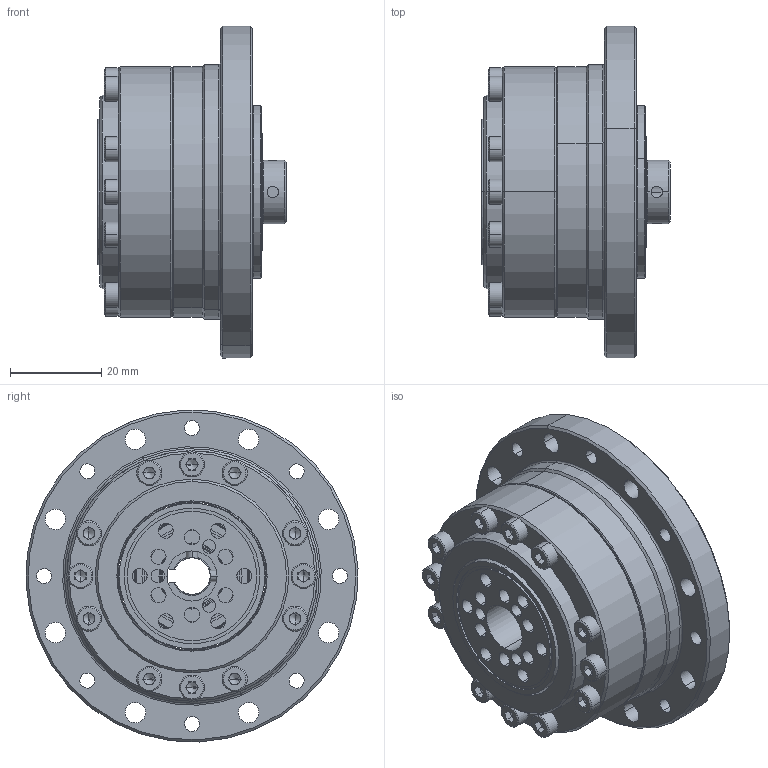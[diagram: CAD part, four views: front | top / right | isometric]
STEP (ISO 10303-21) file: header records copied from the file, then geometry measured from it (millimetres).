
FILE_DESCRIPTION (( 'STEP AP203' ), '1' );
FILE_NAME ('BCSG-14-XXX-U-¢ò.STEP', '2019-01-15T03:29:59', ( 'User' ), ( 'China' ), 'SwSTEP 2.0', 'SolidWorks 2015', '' );
FILE_SCHEMA (( 'CONFIG_CONTROL_DESIGN' ));
Length unit declared in the file: millimetre
Products named in the file (1): BCSG-14-XXX-U-ｊ
Bounding box: 41.5 x 72.93 x 72.93 mm (x, y, z)
Surface area: 32522.2 mm2 (no closed solid volume)
Topology: 0 solids, 52 shells, 673 faces, 1946 edges, 1242 vertices
Faces by surface type: cylinder 184, plane 170, torus 141, cone 136, sphere 40, bspline 2
Entity records: 22060 total; most frequent: CARTESIAN_POINT 4692, DIRECTION 3990, ORIENTED_EDGE 3150, EDGE_CURVE 1822, AXIS2_PLACEMENT_3D 1676, VERTEX_POINT 1182, CIRCLE 1004, EDGE_LOOP 810
